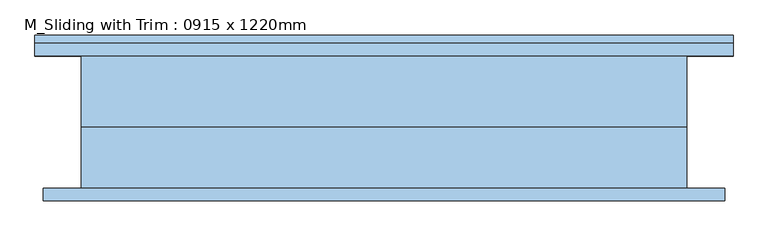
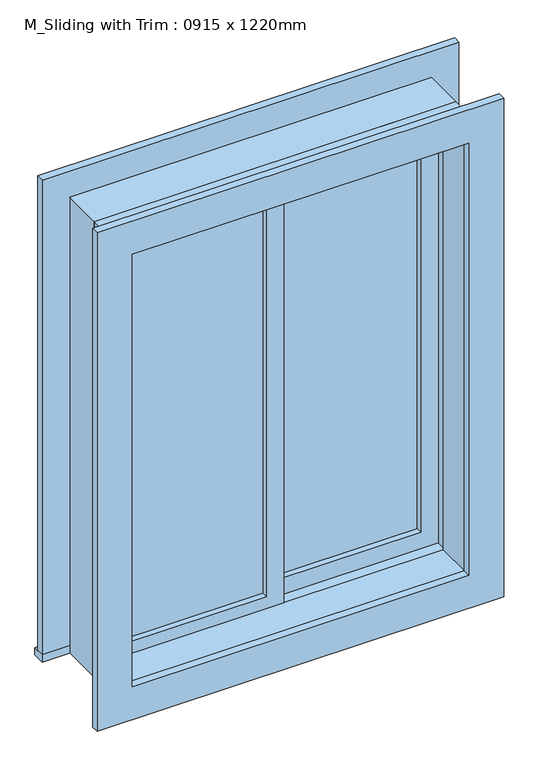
"""IFC4 building model written with IfcOpenShell, lengths in millimetres: window geometry, M_Sliding with Trim : 0915 x 1220mm."""

import ifcopenshell
import ifcopenshell.guid

model = None  # the IFC model being written
_history = None  # IfcOwnerHistory: only IFC2X3 demands one
_inside = {}  # id of a spatial element -> (the spatial element, [elements in it])
_under = {}  # id of a project, library or spatial element -> (it, [spatial elements below it])
_declared = {}  # id of a project -> (the project, [libraries it declares])
_typed = {}  # id of a type object -> (the type object, [elements of that type])
_made_of = {}  # id of a material, layer set ... -> (it, [elements and type objects made of it])


def new_model(schema):
    """Start an empty IFC model of exactly this schema.

    Asked for "IFC4X3", IfcOpenShell would pick the latest addendum, in which some entities
    have other attributes; the version numbers below select the first issue.
    IFC2X3 requires an IfcOwnerHistory on every rooted entity: one is made here for all.
    """
    global model, _history
    if schema == "IFC4X3":
        model = ifcopenshell.file(schema_version=(4, 3, 0, 0))
    else:
        model = ifcopenshell.file(schema=schema)
    _inside.clear()
    _under.clear()
    _declared.clear()
    _typed.clear()
    _made_of.clear()
    _history = None
    if model.schema == "IFC2X3":
        org = make("IfcOrganization", Name="unknown")
        user = make(
            "IfcPersonAndOrganization",
            ThePerson=make("IfcPerson", FamilyName="unknown"),
            TheOrganization=org,
        )
        app = make(
            "IfcApplication",
            ApplicationDeveloper=org,
            Version="unknown",
            ApplicationFullName="unknown",
            ApplicationIdentifier="unknown",
        )
        _history = make(
            "IfcOwnerHistory",
            OwningUser=user,
            OwningApplication=app,
            ChangeAction="ADDED",
            CreationDate=0,
        )
    return model


def make(cls, **values):
    """One entity of the class cls with the attributes given. An attribute that is None is left unset."""
    return model.create_entity(
        cls, **{name: value for name, value in values.items() if value is not None}
    )


def rooted(cls, **values):
    """An entity with a GlobalId (a new one), such as an element, a storey or a relation."""
    return make(cls, GlobalId=ifcopenshell.guid.new(), OwnerHistory=_history, **values)


def si_unit(unit_type, name, prefix=None):
    """IfcSIUnit, for example si_unit("LENGTHUNIT", "METRE", prefix="MILLI")."""
    return make("IfcSIUnit", UnitType=unit_type, Prefix=prefix, Name=name)


def assignment(units):
    """IfcUnitAssignment: the units of a project."""
    return None if units is None else make("IfcUnitAssignment", Units=units)


def point(xyz):
    """IfcCartesianPoint."""
    return None if xyz is None else make("IfcCartesianPoint", Coordinates=xyz)


def direction(xyz):
    """IfcDirection."""
    return None if xyz is None else make("IfcDirection", DirectionRatios=xyz)


def frame(location, z_axis=None, x_axis=None):
    """IfcAxis2Placement3D, a coordinate frame: its origin and axes. An axis left out is left unset."""
    return make(
        "IfcAxis2Placement3D",
        Location=point(location),
        Axis=direction(z_axis),
        RefDirection=direction(x_axis),
    )


def origin():
    """The frame at (0, 0, 0) with its axes left unset."""
    return frame((0.0, 0.0, 0.0))


def place(relative_to, where):
    """IfcLocalPlacement: puts the frame where relative to a parent placement (None: the world)."""
    return make(
        "IfcLocalPlacement", PlacementRelTo=relative_to, RelativePlacement=where
    )


def context(
    kind, dimensions, precision=None, world=None, true_north=None, identifier=None
):
    """IfcGeometricRepresentationContext, for example the 3D "Model" context."""
    return make(
        "IfcGeometricRepresentationContext",
        ContextIdentifier=identifier,
        ContextType=kind,
        CoordinateSpaceDimension=dimensions,
        Precision=precision,
        WorldCoordinateSystem=world,
        TrueNorth=true_north,
    )


def project(units=None, contexts=None):
    """IfcProject with its units and contexts."""
    return rooted(
        "IfcProject",
        Name="project",
        RepresentationContexts=contexts,
        UnitsInContext=assignment(units),
    )


def spatial(cls, under=None, at=None, **own):
    """A site, building, storey or space (cls), placed at a placement, below another one or the project."""
    s = rooted(cls, ObjectPlacement=at, **own)
    if under is not None:
        _under.setdefault(under.id(), (under, []))[1].append(s)
    return s


def polyline(points):
    """IfcPolyline through the points."""
    return make("IfcPolyline", Points=[point(p) for p in points])


def outline(outer, holes=None, kind="AREA"):
    """IfcArbitraryClosedProfileDef: a profile drawn as a closed curve; with holes, ...WithVoids."""
    if holes is None:
        return make("IfcArbitraryClosedProfileDef", ProfileType=kind, OuterCurve=outer)
    return make(
        "IfcArbitraryProfileDefWithVoids",
        ProfileType=kind,
        OuterCurve=outer,
        InnerCurves=holes,
    )


def extrude(swept, where, along, depth):
    """IfcExtrudedAreaSolid: the profile swept, set in the frame where, extruded along a direction by depth."""
    return make(
        "IfcExtrudedAreaSolid",
        SweptArea=swept,
        Position=where,
        ExtrudedDirection=direction(along),
        Depth=depth,
    )


def shape(context_of_items, identifier, shape_type, items):
    """IfcShapeRepresentation: the items that make up one representation, for example the "Body"."""
    return make(
        "IfcShapeRepresentation",
        ContextOfItems=context_of_items,
        RepresentationIdentifier=identifier,
        RepresentationType=shape_type,
        Items=items,
    )


def source(mapping_origin, context_of_items, identifier, shape_type, items):
    """IfcRepresentationMap: a shape defined once, which mapped items show again and again."""
    return make(
        "IfcRepresentationMap",
        MappingOrigin=mapping_origin,
        MappedRepresentation=shape(context_of_items, identifier, shape_type, items),
    )


def transform(
    local_origin,
    x_axis=None,
    y_axis=None,
    z_axis=None,
    scale=None,
    scale2=None,
    scale3=None,
    uniform=True,
):
    """IfcCartesianTransformationOperator3D, or its non-uniform kind. x_axis, y_axis, z_axis: its Axis1, 2, 3."""
    if uniform:
        return make(
            "IfcCartesianTransformationOperator3D",
            Axis1=direction(x_axis),
            Axis2=direction(y_axis),
            LocalOrigin=point(local_origin),
            Scale=scale,
            Axis3=direction(z_axis),
        )
    return make(
        "IfcCartesianTransformationOperator3DnonUniform",
        Axis1=direction(x_axis),
        Axis2=direction(y_axis),
        LocalOrigin=point(local_origin),
        Scale=scale,
        Axis3=direction(z_axis),
        Scale2=scale2,
        Scale3=scale3,
    )


def mapped(mapping_source, mapping_target):
    """IfcMappedItem: shows the shape of a source again, moved by a transform."""
    return make(
        "IfcMappedItem", MappingSource=mapping_source, MappingTarget=mapping_target
    )


def made_of(thing, what):
    """Note that an element or type object is made of a material, layer set ...; save() writes the relation."""
    if what is not None:
        _made_of.setdefault(what.id(), (what, []))[1].append(thing)
    return thing


def element(
    cls,
    number,
    at=None,
    inside=None,
    cuts=None,
    type_object=None,
    material=None,
    context=None,
    identifier="Body",
    shape_type=None,
    held_by="IfcProductDefinitionShape",
    body=None,
    shapes=None,
    **own,
):
    """One element of the class cls, such as IfcWall. Its Tag is "e" and its number.

    at: its placement. inside: the storey or other place that contains it. cuts: it is an
    opening in that element (IfcRelVoidsElement). A single representation is given by context,
    identifier, shape_type and body (its items); several are given by shapes. held_by: the class
    of the entity that holds the representations. save() writes the other relations.
    """
    e = rooted(cls, Tag="e%d" % number, ObjectPlacement=at, **own)
    if body is not None:
        shapes = [shape(context, identifier, shape_type, body)]
    if shapes is not None:
        e.Representation = make(held_by, Representations=shapes)
    if inside is not None:
        _inside.setdefault(inside.id(), (inside, []))[1].append(e)
    if cuts is not None:
        rooted(
            "IfcRelVoidsElement", RelatingBuildingElement=cuts, RelatedOpeningElement=e
        )
    if type_object is not None:
        _typed.setdefault(type_object.id(), (type_object, []))[1].append(e)
    return made_of(e, material)


def aggregate(whole, parts):
    """IfcRelAggregates: a whole, such as a stair, and the parts it consists of."""
    return rooted("IfcRelAggregates", RelatingObject=whole, RelatedObjects=parts)


def save(model, path):
    """Write the relations noted so far, then the file.

    IfcRelAggregates (storeys below a building ...), IfcRelContainedInSpatialStructure (elements
    in a storey), IfcRelDefinesByType, IfcRelAssociatesMaterial and IfcRelDeclares: one each for
    every whole, place, type object, material and project.
    """
    for whole, parts in _under.values():
        aggregate(whole, parts)
    for where, things in _inside.values():
        rooted(
            "IfcRelContainedInSpatialStructure",
            RelatedElements=things,
            RelatingStructure=where,
        )
    for kind, things in _typed.values():
        rooted("IfcRelDefinesByType", RelatedObjects=things, RelatingType=kind)
    for what, things in _made_of.values():
        rooted("IfcRelAssociatesMaterial", RelatedObjects=things, RelatingMaterial=what)
    for by, libraries in _declared.values():
        rooted("IfcRelDeclares", RelatingContext=by, RelatedDefinitions=libraries)
    model.write(path)


def m_sliding_with_trim_0915_x_1220mm_c5f69082(model_context):
    return source(origin(), model_context, "Body", "SweptSolid", [
        extrude(outline(polyline([(-394.0, 20.675), (-22.225, 20.675), (-22.225, 7.975), (-394.0, 7.975), (-394.0, 20.675)])), frame((0.0, 0.0, 978.5), z_axis=(0.0, 0.0, 1.0), x_axis=(1.0, 0.0, 0.0)), (0.0, 0.0, 1.0), 1093.0),
        extrude(outline(polyline([(2115.95, -438.45), (934.05, -438.45), (934.05, 22.225), (2115.95, 22.225), (2115.95, -438.45)]), holes=[polyline([(2071.5, -394.0), (2071.5, -22.225), (978.5, -22.225), (978.5, -394.0), (2071.5, -394.0)])]), frame((0.0, -7.9, 0.0), z_axis=(0.0, 1.0, 0.0), x_axis=(0.0, 0.0, 1.0)), (0.0, 0.0, 1.0), 44.45),
        extrude(outline(polyline([(-527.45, 131.7), (527.45, 131.7), (527.45, 100.0), (-527.45, 100.0), (-527.45, 131.7)])), frame((0.0, 0.0, 915.0), z_axis=(0.0, 0.0, 1.0), x_axis=(1.0, 0.0, 0.0)), (0.0, 0.0, 1.0), 19.05),
        extrude(outline(polyline([(2115.95, -438.45), (2115.95, 438.45), (934.05, 438.45), (934.05, 527.45), (2204.95, 527.45), (2204.95, -527.45), (934.05, -527.45), (934.05, -438.45), (2115.95, -438.45)])), frame((0.0, 100.0, 0.0), z_axis=(0.0, 1.0, 0.0), x_axis=(0.0, 0.0, 1.0)), (0.0, 0.0, 1.0), 19.0),
        extrude(outline(polyline([(2192.25, 514.75), (2192.25, -514.75), (857.75, -514.75), (857.75, 514.75), (2192.25, 514.75)]), holes=[polyline([(2103.25, 425.75), (946.75, 425.75), (946.75, -425.75), (2103.25, -425.75), (2103.25, 425.75)])]), frame((0.0, -119.0, 0.0), z_axis=(0.0, 1.0, 0.0), x_axis=(0.0, 0.0, 1.0)), (0.0, 0.0, 1.0), 19.0),
        extrude(outline(polyline([(394.0, 52.425), (22.225, 52.425), (22.225, 65.125), (394.0, 65.125), (394.0, 52.425)])), frame((0.0, 0.0, 978.5), z_axis=(0.0, 0.0, 1.0), x_axis=(1.0, 0.0, 0.0)), (0.0, 0.0, 1.0), 1093.0),
        extrude(outline(polyline([(2115.95, -22.225), (934.05, -22.225), (934.05, 438.45), (2115.95, 438.45), (2115.95, -22.225)]), holes=[polyline([(2071.5, 22.225), (2071.5, 394.0), (978.5, 394.0), (978.5, 22.225), (2071.5, 22.225)])]), frame((0.0, 36.55, 0.0), z_axis=(0.0, 1.0, 0.0), x_axis=(0.0, 0.0, 1.0)), (0.0, 0.0, 1.0), 44.45),
        extrude(outline(polyline([(2135.0, -457.5), (915.0, -457.5), (915.0, 457.5), (2135.0, 457.5), (2135.0, -457.5)]), holes=[polyline([(2103.25, -425.75), (2103.25, 425.75), (946.75, 425.75), (946.75, -425.75), (2103.25, -425.75)])]), frame((0.0, -100.0, 0.0), z_axis=(0.0, 1.0, 0.0), x_axis=(0.0, 0.0, 1.0)), (0.0, 0.0, 1.0), 92.1),
        extrude(outline(polyline([(2135.0, 457.5), (2135.0, -457.5), (915.0, -457.5), (915.0, 457.5), (2135.0, 457.5)]), holes=[polyline([(2115.95, 438.45), (934.05, 438.45), (934.05, -438.45), (2115.95, -438.45), (2115.95, 438.45)])]), frame((0.0, -7.9, 0.0), z_axis=(0.0, 1.0, 0.0), x_axis=(0.0, 0.0, 1.0)), (0.0, 0.0, 1.0), 107.9),
    ])


if __name__ == "__main__":
    model = new_model("IFC4")
    model_context = context("Model", 3, world=origin())
    ifc_project = project(units=[si_unit("LENGTHUNIT", "METRE", prefix="MILLI")], contexts=[model_context])
    site = spatial("IfcSite", under=ifc_project)
    building = spatial("IfcBuilding", under=site)
    placement = place(None, origin())
    m_sliding_with_trim_0915_x_1220mm_shape = m_sliding_with_trim_0915_x_1220mm_c5f69082(model_context)
    element("IfcWindow", 1, ObjectType="M_Sliding with Trim : 0915 x 1220mm", at=placement, inside=building, context=model_context, shape_type="MappedRepresentation", body=[
        mapped(m_sliding_with_trim_0915_x_1220mm_shape, transform((0.0, 0.0, 0.0), x_axis=(1.0, 0.0, 0.0), y_axis=(0.0, 1.0, 0.0), z_axis=(0.0, 0.0, 1.0))),
    ])
    save(model, "model.ifc")
